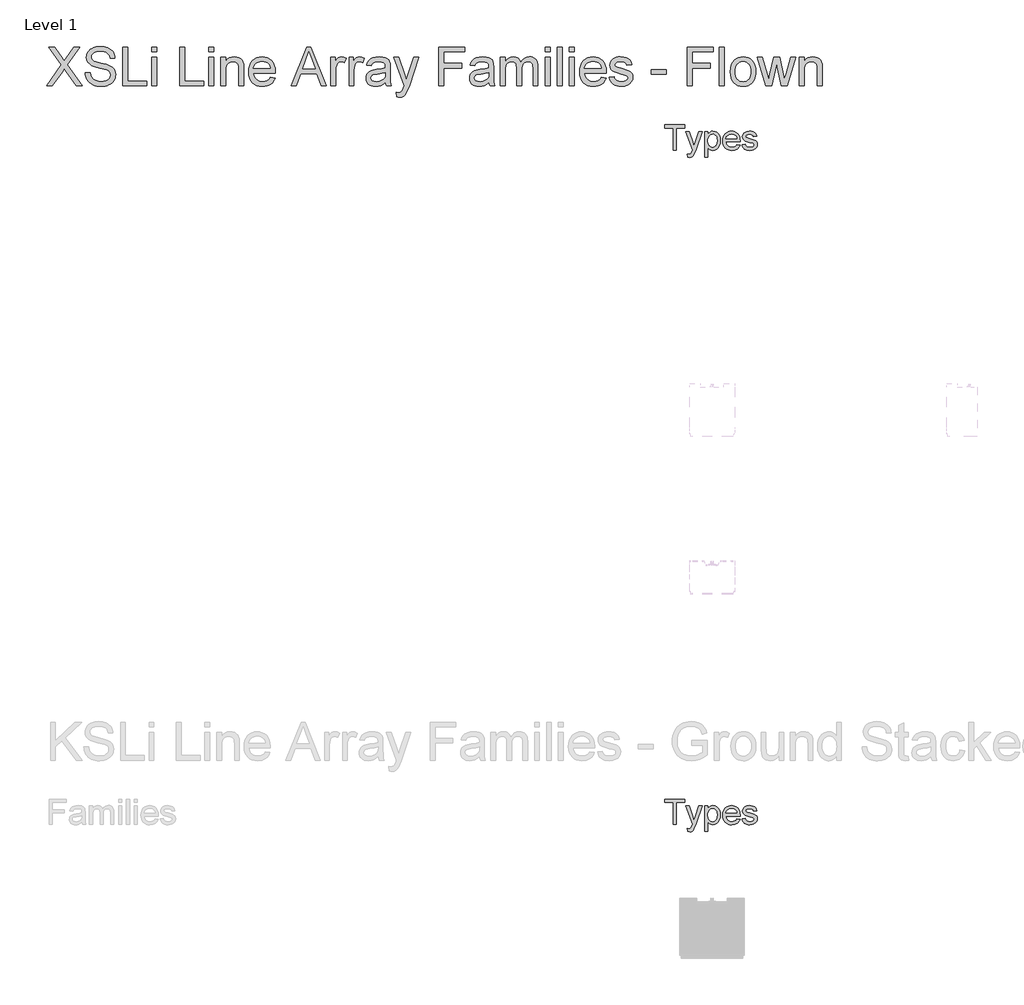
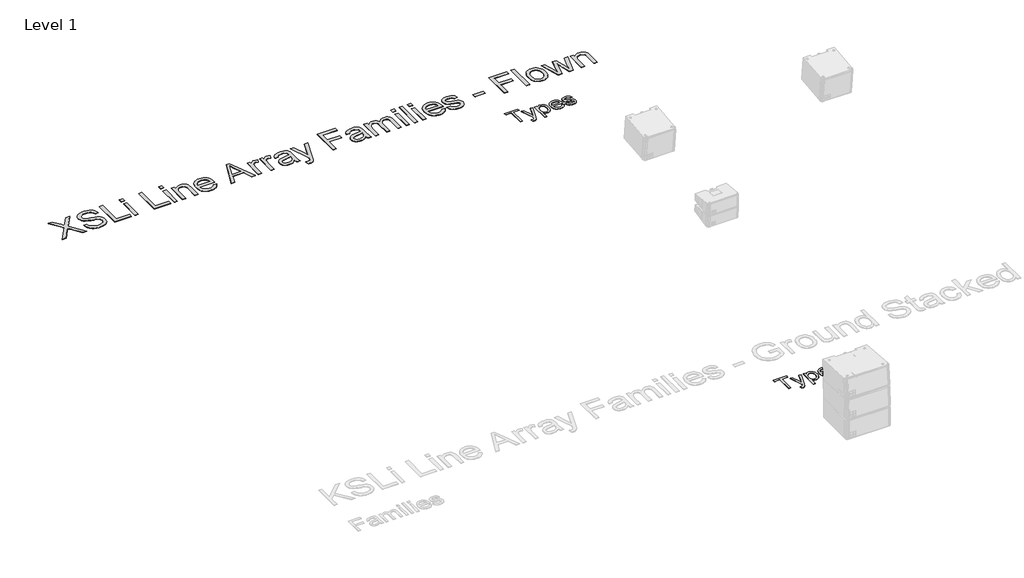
# One storey, part 42 of 52: 3 proxies.
"""IFC4 building model written with IfcOpenShell, lengths in millimetres."""

from ifc_helpers import new_model, si_unit, origin, origin_with_axes, place, context, project, spatial, polyline, outline, extrude, element, save

model = new_model("IFC4")

# Units and contexts
model_context = context("Model", 3, world=origin())
ifc_project = project(units=[si_unit("LENGTHUNIT", "METRE", prefix="MILLI")], contexts=[model_context])

# Site, building, storey
site = spatial("IfcSite", under=ifc_project)
building = spatial("IfcBuilding", under=site)
storey = spatial("IfcBuildingStorey", under=building, Name="Level 1", Elevation=0.0)

# Proxies
placement = place(None, origin())
element("IfcBuildingElementProxy", 1, Name="400mm Arial", ObjectType="400mm Arial", at=placement, inside=storey, context=model_context, shape_type="SweptSolid", body=[
    extrude(outline(polyline([(15654.0416973, -32067.5695164), (15654.0416973, -31724.7816376), (15525.4962428, -31724.7816376), (15525.4962428, -31675.8119407), (15831.5568488, -31675.8119407), (15831.5568488, -31724.7816376), (15703.0113943, -31724.7816376), (15703.0113943, -32067.5695164), (15654.0416973, -32067.5695164)])), origin_with_axes(), (0.0, 0.0, 1.0), 5.0),
    extrude(outline(polyline([(15880.5265458, -32177.7513346), (15874.4053337, -32130.5988725), (15899.2727579, -32134.9028498), (15912.3520666, -32133.5518791), (15922.5142352, -32129.4989672), (15936.7651821, -32114.4350467), (15950.1553337, -32078.3772816), (15953.9810912, -32066.5174331), (15849.9204852, -31779.8725467), (15901.5682125, -31779.8725467), (15956.7547655, -31939.5979255), (15975.9791973, -32003.488077), (15995.2036291, -31947.0581528), (16051.9204852, -31779.8725467), (16103.1856367, -31779.8725467), (16003.0464321, -32074.4558801), (15977.0312806, -32138.3460316), (15963.7128621, -32158.7421017), (15948.6250306, -32172.8734937), (15931.0982787, -32181.1227835), (15910.4630988, -32183.8725467), (15880.5265458, -32177.7513346)])), origin_with_axes(), (0.0, 0.0, 1.0), 5.0),
    extrude(outline(polyline([(16143.738667, -32177.7513346), (16143.738667, -31779.8725467), (16192.708364, -31779.8725467), (16192.708364, -31827.8858043), (16208.6809018, -31804.2019738), (16226.5663185, -31787.284952), (16247.4166973, -31777.134739), (16272.2841215, -31773.7513346), (16305.4008356, -31778.4857096), (16334.3570382, -31792.6888346), (16357.9332693, -31815.4999142), (16374.9100685, -31846.0581528), (16385.167881, -31882.1398289), (16388.5871518, -31921.521221), (16384.7255278, -31963.4013109), (16373.1406556, -32000.8578687), (16354.2031556, -32031.989971), (16328.2836481, -32054.8966945), (16298.0960297, -32068.99222), (16266.3541973, -32073.6907285), (16243.8420051, -32070.546434), (16223.7448223, -32061.1135505), (16206.5408687, -32046.874559), (16192.708364, -32029.3119407), (16192.708364, -32177.7513346), (16143.738667, -32177.7513346)]), holes=[polyline([(16192.708364, -31926.0164861), (16198.0046471, -31969.9170543), (16204.625001, -31986.9177645), (16213.8934965, -32000.6187589), (16237.3382172, -32018.6954634), (16250.7552686, -32023.2146395), (16265.302114, -32024.7210316), (16280.0581805, -32023.1608398), (16293.7203195, -32018.4802645), (16317.7628147, -31999.7579634), (16327.3242198, -31985.5608161), (16334.1537948, -31967.9324426), (16339.6174549, -31922.3820164), (16334.2853053, -31878.7205581), (16327.6201182, -31861.5883375), (16318.2888564, -31847.5884558), (16294.8800022, -31828.9378876), (16281.6153834, -31824.2752456), (16267.3106367, -31822.7210316), (16253.0507231, -31824.3738784), (16239.6336717, -31829.3324189), (16215.3281556, -31849.1665808), (16205.4319968, -31863.8867809), (16198.3633119, -31881.6018318), (16194.1221009, -31902.3117335), (16192.708364, -31926.0164861)])]), origin_with_axes(), (0.0, 0.0, 1.0), 5.0),
    extrude(outline(polyline([(16645.1041973, -31981.8725467), (16693.1174549, -31987.9937589), (16685.7558604, -32007.2241684), (16675.8178573, -32024.1710789), (16663.3034456, -32038.8344904), (16648.2126253, -32051.2144028), (16630.7008178, -32061.0477953), (16610.9234445, -32068.0716471), (16564.5720003, -32073.6907285), (16534.1871163, -32071.2667525), (16507.1139037, -32063.9948242), (16483.3523625, -32051.8749437), (16462.9024928, -32034.9071111), (16446.4577129, -32013.5635683), (16434.7114416, -31988.3165571), (16427.6636788, -31959.1660777), (16425.3144246, -31926.1121301), (16427.6875898, -31891.937355), (16434.8070856, -31861.8154918), (16446.6729118, -31835.7465406), (16463.2850685, -31813.7305013), (16483.6811386, -31796.2396159), (16506.8987049, -31783.7461263), (16532.9377674, -31776.2500325), (16561.7983261, -31773.7513346), (16589.7293453, -31776.2440548), (16614.9883119, -31783.7222153), (16637.5752259, -31796.1858161), (16657.4900875, -31813.6348573), (16673.7465683, -31835.6030747), (16685.3583403, -31861.6242039), (16692.3254035, -31891.6982451), (16694.6477579, -31925.8251982), (16694.3608261, -31939.0240619), (16474.2841215, -31939.0240619), (16477.1205621, -31958.5653142), (16482.7605657, -31975.6796017), (16491.2041322, -31990.3669241), (16502.4512617, -32002.6272816), (16530.8694672, -32019.1975941), (16565.5284397, -32024.7210316), (16591.5914132, -32022.1625562), (16613.5416973, -32014.4871301), (16631.379292, -32001.2165335), (16645.1041973, -31981.8725467)]), holes=[polyline([(16474.2841215, -31890.0543649), (16645.6780609, -31890.0543649), (16639.0547181, -31864.1826793), (16626.0710534, -31845.675577), (16612.7167683, -31835.6329634), (16597.5213375, -31828.4596679), (16561.6070382, -31822.7210316), (16528.5979236, -31827.2999852), (16501.3035344, -31841.036846), (16482.3301679, -31862.4491329), (16474.2841215, -31890.0543649)])]), origin_with_axes(), (0.0, 0.0, 1.0), 5.0),
    extrude(outline(polyline([(16725.2538185, -31981.8725467), (16774.2235155, -31975.7513346), (16781.9467636, -31996.6973573), (16796.8911291, -32012.0960316), (16819.152256, -32021.5647816), (16848.8257882, -32024.7210316), (16878.1406556, -32021.8278024), (16898.7519246, -32013.1481149), (16910.9465268, -32000.5709369), (16915.0113943, -31985.9852361), (16910.9226159, -31973.503702), (16898.6562806, -31963.9871301), (16848.2519246, -31950.0231149), (16774.5104473, -31926.0643081), (16755.8479236, -31914.0251272), (16742.3262617, -31898.0884558), (16734.1128384, -31879.2705107), (16731.3750306, -31858.5875089), (16733.5748412, -31839.6141424), (16740.1742731, -31822.099346), (16750.5755515, -31806.7365382), (16764.1809018, -31794.2191376), (16795.3130041, -31779.7290808), (16837.4441594, -31773.7513346), (16869.3175022, -31776.1543886), (16897.0303337, -31783.3635505), (16919.3153715, -31794.6734464), (16934.9053337, -31809.378702), (16945.2348791, -31828.5672674), (16951.738667, -31853.3270922), (16902.76897, -31859.4483043), (16896.5879804, -31844.0376746), (16884.3575117, -31832.4288914), (16865.9580089, -31825.1479965), (16841.269917, -31822.7210316), (16813.1505988, -31825.0403971), (16794.4043867, -31831.9984937), (16783.8596424, -31842.0411073), (16780.3447276, -31853.614024), (16786.1790079, -31867.864971), (16804.4470003, -31878.6727361), (16846.6259776, -31889.0979255), (16918.5023981, -31912.1481149), (16937.48772, -31923.1710789), (16951.8821329, -31938.2589104), (16960.9563517, -31957.4594312), (16963.9810912, -31980.8204634), (16960.43031, -32004.9705581), (16949.7779662, -32027.6859937), (16932.4305467, -32047.1854018), (16908.7945382, -32061.6874142), (16880.2448223, -32070.6899), (16848.1562806, -32073.6907285), (16821.8003976, -32072.244114), (16798.7800969, -32067.9042702), (16779.0953786, -32060.6711973), (16762.7462428, -32050.5448952), (16749.3919577, -32037.5731859), (16738.691792, -32021.8038914), (16730.6457456, -32003.2370117), (16725.2538185, -31981.8725467)])), origin_with_axes(), (0.0, 0.0, 1.0), 5.0),
])
element("IfcBuildingElementProxy", 2, Name="400mm Arial", ObjectType="400mm Arial", at=placement, inside=storey, context=model_context, shape_type="SweptSolid", body=[
    extrude(outline(polyline([(15654.0416973, -21567.5695164), (15654.0416973, -21224.7816376), (15525.4962428, -21224.7816376), (15525.4962428, -21175.8119407), (15831.5568488, -21175.8119407), (15831.5568488, -21224.7816376), (15703.0113943, -21224.7816376), (15703.0113943, -21567.5695164), (15654.0416973, -21567.5695164)])), origin_with_axes(), (0.0, 0.0, 1.0), 5.0),
    extrude(outline(polyline([(15880.5265458, -21677.7513346), (15874.4053337, -21630.5988725), (15899.2727579, -21634.9028498), (15912.3520666, -21633.5518791), (15922.5142352, -21629.4989672), (15936.7651821, -21614.4350467), (15950.1553337, -21578.3772816), (15953.9810912, -21566.5174331), (15849.9204852, -21279.8725467), (15901.5682125, -21279.8725467), (15956.7547655, -21439.5979255), (15975.9791973, -21503.488077), (15995.2036291, -21447.0581528), (16051.9204852, -21279.8725467), (16103.1856367, -21279.8725467), (16003.0464321, -21574.4558801), (15977.0312806, -21638.3460316), (15963.7128621, -21658.7421017), (15948.6250306, -21672.8734937), (15931.0982787, -21681.1227835), (15910.4630988, -21683.8725467), (15880.5265458, -21677.7513346)])), origin_with_axes(), (0.0, 0.0, 1.0), 5.0),
    extrude(outline(polyline([(16143.738667, -21677.7513346), (16143.738667, -21279.8725467), (16192.708364, -21279.8725467), (16192.708364, -21327.8858043), (16208.6809018, -21304.2019738), (16226.5663185, -21287.284952), (16247.4166973, -21277.134739), (16272.2841215, -21273.7513346), (16305.4008356, -21278.4857096), (16334.3570382, -21292.6888346), (16357.9332693, -21315.4999142), (16374.9100685, -21346.0581528), (16385.167881, -21382.1398289), (16388.5871518, -21421.521221), (16384.7255278, -21463.4013109), (16373.1406556, -21500.8578687), (16354.2031556, -21531.989971), (16328.2836481, -21554.8966945), (16298.0960297, -21568.99222), (16266.3541973, -21573.6907285), (16243.8420051, -21570.546434), (16223.7448223, -21561.1135505), (16206.5408687, -21546.874559), (16192.708364, -21529.3119407), (16192.708364, -21677.7513346), (16143.738667, -21677.7513346)]), holes=[polyline([(16192.708364, -21426.0164861), (16198.0046471, -21469.9170543), (16204.625001, -21486.9177645), (16213.8934965, -21500.6187589), (16237.3382172, -21518.6954634), (16250.7552686, -21523.2146395), (16265.302114, -21524.7210316), (16280.0581805, -21523.1608398), (16293.7203195, -21518.4802645), (16317.7628147, -21499.7579634), (16327.3242198, -21485.5608161), (16334.1537948, -21467.9324426), (16339.6174549, -21422.3820164), (16334.2853053, -21378.7205581), (16327.6201182, -21361.5883375), (16318.2888564, -21347.5884558), (16294.8800022, -21328.9378876), (16281.6153834, -21324.2752456), (16267.3106367, -21322.7210316), (16253.0507231, -21324.3738784), (16239.6336717, -21329.3324189), (16215.3281556, -21349.1665808), (16205.4319968, -21363.8867809), (16198.3633119, -21381.6018318), (16194.1221009, -21402.3117335), (16192.708364, -21426.0164861)])]), origin_with_axes(), (0.0, 0.0, 1.0), 5.0),
    extrude(outline(polyline([(16645.1041973, -21481.8725467), (16693.1174549, -21487.9937589), (16685.7558604, -21507.2241684), (16675.8178573, -21524.1710789), (16663.3034456, -21538.8344904), (16648.2126253, -21551.2144028), (16630.7008178, -21561.0477953), (16610.9234445, -21568.0716471), (16564.5720003, -21573.6907285), (16534.1871163, -21571.2667525), (16507.1139037, -21563.9948242), (16483.3523625, -21551.8749437), (16462.9024928, -21534.9071111), (16446.4577129, -21513.5635683), (16434.7114416, -21488.3165571), (16427.6636788, -21459.1660777), (16425.3144246, -21426.1121301), (16427.6875898, -21391.937355), (16434.8070856, -21361.8154918), (16446.6729118, -21335.7465406), (16463.2850685, -21313.7305013), (16483.6811386, -21296.2396159), (16506.8987049, -21283.7461263), (16532.9377674, -21276.2500325), (16561.7983261, -21273.7513346), (16589.7293453, -21276.2440548), (16614.9883119, -21283.7222153), (16637.5752259, -21296.1858161), (16657.4900875, -21313.6348573), (16673.7465683, -21335.6030747), (16685.3583403, -21361.6242039), (16692.3254035, -21391.6982451), (16694.6477579, -21425.8251982), (16694.3608261, -21439.0240619), (16474.2841215, -21439.0240619), (16477.1205621, -21458.5653142), (16482.7605657, -21475.6796017), (16491.2041322, -21490.3669241), (16502.4512617, -21502.6272816), (16530.8694672, -21519.1975941), (16565.5284397, -21524.7210316), (16591.5914132, -21522.1625562), (16613.5416973, -21514.4871301), (16631.379292, -21501.2165335), (16645.1041973, -21481.8725467)]), holes=[polyline([(16474.2841215, -21390.0543649), (16645.6780609, -21390.0543649), (16639.0547181, -21364.1826793), (16626.0710534, -21345.675577), (16612.7167683, -21335.6329634), (16597.5213375, -21328.4596679), (16561.6070382, -21322.7210316), (16528.5979236, -21327.2999852), (16501.3035344, -21341.036846), (16482.3301679, -21362.4491329), (16474.2841215, -21390.0543649)])]), origin_with_axes(), (0.0, 0.0, 1.0), 5.0),
    extrude(outline(polyline([(16725.2538185, -21481.8725467), (16774.2235155, -21475.7513346), (16781.9467636, -21496.6973573), (16796.8911291, -21512.0960316), (16819.152256, -21521.5647816), (16848.8257882, -21524.7210316), (16878.1406556, -21521.8278024), (16898.7519246, -21513.1481149), (16910.9465268, -21500.5709369), (16915.0113943, -21485.9852361), (16910.9226159, -21473.503702), (16898.6562806, -21463.9871301), (16848.2519246, -21450.0231149), (16774.5104473, -21426.0643081), (16755.8479236, -21414.0251272), (16742.3262617, -21398.0884558), (16734.1128384, -21379.2705107), (16731.3750306, -21358.5875089), (16733.5748412, -21339.6141424), (16740.1742731, -21322.099346), (16750.5755515, -21306.7365382), (16764.1809018, -21294.2191376), (16795.3130041, -21279.7290808), (16837.4441594, -21273.7513346), (16869.3175022, -21276.1543886), (16897.0303337, -21283.3635505), (16919.3153715, -21294.6734464), (16934.9053337, -21309.378702), (16945.2348791, -21328.5672674), (16951.738667, -21353.3270922), (16902.76897, -21359.4483043), (16896.5879804, -21344.0376746), (16884.3575117, -21332.4288914), (16865.9580089, -21325.1479965), (16841.269917, -21322.7210316), (16813.1505988, -21325.0403971), (16794.4043867, -21331.9984937), (16783.8596424, -21342.0411073), (16780.3447276, -21353.614024), (16786.1790079, -21367.864971), (16804.4470003, -21378.6727361), (16846.6259776, -21389.0979255), (16918.5023981, -21412.1481149), (16937.48772, -21423.1710789), (16951.8821329, -21438.2589104), (16960.9563517, -21457.4594312), (16963.9810912, -21480.8204634), (16960.43031, -21504.9705581), (16949.7779662, -21527.6859937), (16932.4305467, -21547.1854018), (16908.7945382, -21561.6874142), (16880.2448223, -21570.6899), (16848.1562806, -21573.6907285), (16821.8003976, -21572.244114), (16798.7800969, -21567.9042702), (16779.0953786, -21560.6711973), (16762.7462428, -21550.5448952), (16749.3919577, -21537.5731859), (16738.691792, -21521.8038914), (16730.6457456, -21503.2370117), (16725.2538185, -21481.8725467)])), origin_with_axes(), (0.0, 0.0, 1.0), 5.0),
])
element("IfcBuildingElementProxy", 3, Name="600mm Arial", ObjectType="600mm Arial", at=placement, inside=storey, context=model_context, shape_type="SweptSolid", body=[
    extrude(outline(polyline([(5900.4306241, -20567.5695164), (6132.7848923, -20239.1244711), (5938.1017404, -19964.8316555), (6028.4535584, -19964.8316555), (6138.082393, -20119.1949407), (6164.2388029, -20158.3007968), (6175.0177453, -20179.3804351), (6218.280668, -20118.1648711), (6326.7322801, -19964.8316555), (6418.4084733, -19964.8316555), (6223.7253215, -20240.0073879), (6456.0795896, -20567.5695164), (6365.7277716, -20567.5695164), (6210.923028, -20349.1947641), (6178.6965653, -20303.8717023), (6143.2327409, -20353.609348), (5992.1068173, -20567.5695164), (5900.4306241, -20567.5695164)])), origin_with_axes(), (0.0, 0.0, 1.0), 5.0),
    extrude(outline(polyline([(6503.168485, -20360.3783767), (6578.5107176, -20360.3783767), (6587.1559445, -20402.1881655), (6602.7909293, -20435.7941858), (6627.1815056, -20462.4656304), (6662.0935069, -20483.4716923), (6704.7678184, -20497.1017203), (6752.4453249, -20501.6450629), (6794.4206606, -20498.2053662), (6831.1720719, -20487.8862763), (6860.9521194, -20471.5523157), (6882.0133636, -20450.0680072), (6894.5397456, -20425.4015194), (6898.7152062, -20399.521021), (6895.5882093, -20374.3027103), (6886.2072184, -20352.505702), (6867.150931, -20333.9092672), (6834.9980447, -20318.2926765), (6725.2956337, -20289.5243045), (6653.2827331, -20270.4864112), (6607.2055133, -20252.368223), (6569.6999438, -20227.0211535), (6543.1204697, -20196.3030069), (6527.2831498, -20160.8759708), (6522.0040432, -20121.4022327), (6523.6365195, -20098.9660295), (6528.5339486, -20077.2747874), (6536.6963304, -20056.3285063), (6548.1236648, -20036.1271862), (6562.6871933, -20017.4939631), (6580.2581571, -20001.2519731), (6600.8365562, -19987.4012159), (6624.4223906, -19975.9416918), (6677.4341861, -19960.5458303), (6736.1113644, -19955.4138765), (6799.6813731, -19960.7849536), (6855.3051308, -19976.898185), (6879.6405248, -19988.9003351), (6900.9960746, -20003.4224768), (6919.3717803, -20020.4646103), (6934.7676418, -20040.0267353), (6947.0640974, -20061.538635), (6956.1415857, -20084.4300922), (6962.0001065, -20108.7011068), (6964.6396598, -20134.3516789), (6889.2974272, -20134.3516789), (6884.2574438, -20110.3105905), (6875.4650641, -20089.3964991), (6862.9202881, -20071.6094046), (6846.6231157, -20056.9493071), (6826.2700443, -20045.489783), (6801.5575713, -20037.3044086), (6772.4856966, -20032.3931839), (6739.0544203, -20030.7561091), (6704.5562862, -20032.3747898), (6675.0797414, -20037.2308322), (6650.6247857, -20045.3242361), (6631.1914193, -20056.6550015), (6616.384169, -20070.2758324), (6605.8075617, -20085.2394326), (6599.4615973, -20101.545802), (6597.3462758, -20119.1949407), (6598.8453949, -20134.3792701), (6603.3427523, -20148.1472537), (6610.838348, -20160.4988917), (6621.3321819, -20171.434184), (6637.8500835, -20181.7900622), (6663.8593405, -20192.2563049), (6744.3519211, -20213.5198843), (6827.4196756, -20233.7166058), (6877.6723561, -20251.3381534), (6920.622579, -20278.6717856), (6937.2278526, -20294.7390318), (6950.5865676, -20312.4065646), (6960.8550737, -20331.5824136), (6968.189721, -20352.1746083), (6974.0574388, -20397.6080347), (6972.3697802, -20421.175475), (6967.3068042, -20444.0531365), (6958.868511, -20466.2410194), (6947.0549004, -20487.7391235), (6932.0729061, -20507.7151158), (6914.1294618, -20525.3366634), (6893.2245675, -20540.6037662), (6869.358223, -20553.5164242), (6843.2248058, -20563.7849304), (6815.518693, -20571.1195777), (6755.3883809, -20576.9872955), (6716.8481434, -20575.4054029), (6681.5728586, -20570.6597252), (6649.5625265, -20562.7502623), (6620.8171471, -20551.6770142), (6595.1619764, -20537.4215869), (6572.4222706, -20519.9655863), (6552.5980296, -20499.3090122), (6535.6892534, -20475.4518648), (6522.0684225, -20449.1666963), (6512.1080175, -20421.2260587), (6505.8080383, -20391.6299522), (6503.168485, -20360.3783767)])), origin_with_axes(), (0.0, 0.0, 1.0), 5.0),
    extrude(outline(polyline([(7087.0707878, -20567.5695164), (7087.0707878, -19964.8316555), (7162.4130204, -19964.8316555), (7162.4130204, -20492.2272838), (7463.7819508, -20492.2272838), (7463.7819508, -20567.5695164), (7087.0707878, -20567.5695164)])), origin_with_axes(), (0.0, 0.0, 1.0), 5.0),
    extrude(outline(polyline([(7539.1241834, -20567.5695164), (7539.1241834, -20124.9338998), (7614.466416, -20124.9338998), (7614.466416, -20567.5695164), (7539.1241834, -20567.5695164)])), origin_with_axes(), (0.0, 0.0, 1.0), 5.0),
    extrude(outline(polyline([(7539.1241834, -20040.1738881), (7539.1241834, -19964.8316555), (7614.466416, -19964.8316555), (7614.466416, -20040.1738881), (7539.1241834, -20040.1738881)])), origin_with_axes(), (0.0, 0.0, 1.0), 5.0),
    extrude(outline(polyline([(7972.342021, -20567.5695164), (7972.342021, -19964.8316555), (8047.6842536, -19964.8316555), (8047.6842536, -20492.2272838), (8349.053184, -20492.2272838), (8349.053184, -20567.5695164), (7972.342021, -20567.5695164)])), origin_with_axes(), (0.0, 0.0, 1.0), 5.0),
    extrude(outline(polyline([(8424.3954166, -20567.5695164), (8424.3954166, -20124.9338998), (8499.7376492, -20124.9338998), (8499.7376492, -20567.5695164), (8424.3954166, -20567.5695164)])), origin_with_axes(), (0.0, 0.0, 1.0), 5.0),
    extrude(outline(polyline([(8424.3954166, -20040.1738881), (8424.3954166, -19964.8316555), (8499.7376492, -19964.8316555), (8499.7376492, -20040.1738881), (8424.3954166, -20040.1738881)])), origin_with_axes(), (0.0, 0.0, 1.0), 5.0),
    extrude(outline(polyline([(8612.7509982, -20567.5695164), (8612.7509982, -20124.9338998), (8688.0932308, -20124.9338998), (8688.0932308, -20186.738075), (8714.2680347, -20155.57847), (8745.7035512, -20133.3216093), (8782.3997802, -20119.9674929), (8824.3567218, -20115.5161208), (8861.4944092, -20119.1029702), (8895.5050997, -20129.8635186), (8923.8688015, -20146.4549965), (8944.065523, -20167.5346349), (8957.7691273, -20193.0472512), (8966.6534775, -20222.9376633), (8970.6266031, -20295.7782984), (8970.6266031, -20567.5695164), (8895.2843705, -20567.5695164), (8895.2843705, -20305.9318415), (8893.1138667, -20266.9731382), (8886.6023554, -20239.2716239), (8874.5910082, -20219.4243903), (8855.920997, -20204.0285288), (8831.9902732, -20194.1508972), (8804.1967884, -20190.8583534), (8781.3191269, -20192.7069604), (8760.0693431, -20198.2527815), (8740.4474372, -20207.4958166), (8722.4534091, -20220.4360658), (8707.4208311, -20238.545057), (8696.6832754, -20263.2943182), (8690.2407419, -20294.6838495), (8688.0932308, -20332.7136507), (8688.0932308, -20567.5695164), (8612.7509982, -20567.5695164)])), origin_with_axes(), (0.0, 0.0, 1.0), 5.0),
    extrude(outline(polyline([(9384.1259656, -20435.7206094), (9457.9966703, -20445.1383884), (9446.6705033, -20474.7252979), (9431.3804079, -20500.7989343), (9412.126384, -20523.3592977), (9388.9084316, -20542.406388), (9361.965674, -20557.535535), (9331.5372344, -20568.3420686), (9297.623113, -20574.8259888), (9260.2233097, -20576.9872955), (9213.4747051, -20573.2578918), (9171.8212662, -20562.0696806), (9135.262993, -20543.422662), (9103.7998853, -20517.3168359), (9078.4988011, -20484.4787693), (9060.4265981, -20445.6350291), (9049.5832763, -20400.7856154), (9045.9688357, -20349.9305281), (9049.6200645, -20297.3509939), (9060.5737509, -20251.0070596), (9078.8298949, -20210.8987251), (9104.3884965, -20177.0259903), (9135.7688307, -20150.1154224), (9171.4901724, -20130.8935882), (9211.5525217, -20119.3604876), (9255.9558785, -20115.5161208), (9298.9290941, -20119.3512906), (9337.7912284, -20130.8568), (9372.5422813, -20150.032649), (9403.182253, -20176.8788375), (9428.1936301, -20210.6779959), (9446.0588995, -20250.712754), (9456.7780612, -20296.9831119), (9460.351115, -20349.4890697), (9459.9096567, -20369.7961558), (9121.3110683, -20369.7961558), (9125.6750685, -20399.8613119), (9134.352485, -20426.1924657), (9147.343318, -20448.7896172), (9164.6475673, -20467.6527665), (9185.3087399, -20482.5243962), (9208.3703424, -20493.1469888), (9233.832375, -20499.5205444), (9261.6948376, -20501.6450629), (9301.7939751, -20497.7087255), (9335.5655423, -20485.8997135), (9363.0095391, -20465.4822628), (9384.1259656, -20435.7206094)]), holes=[polyline([(9121.3110683, -20294.4539232), (9385.0088824, -20294.4539232), (9374.8185512, -20254.6490913), (9366.0537626, -20238.9957124), (9354.8425588, -20226.1750249), (9334.2963494, -20210.7239811), (9310.9174486, -20199.6875213), (9284.7058564, -20193.0656453), (9255.6615729, -20190.8583534), (9229.1694708, -20192.6195884), (9204.8754635, -20197.9032936), (9182.7795512, -20206.7094688), (9162.8817337, -20219.0381142), (9146.1844897, -20234.3190126), (9133.6902974, -20251.9819469), (9125.399157, -20272.0269171), (9121.3110683, -20294.4539232)])]), origin_with_axes(), (0.0, 0.0, 1.0), 5.0),
    extrude(outline(polyline([(9710.363719, -20567.5695164), (9950.9585438, -19964.8316555), (10015.1171638, -19964.8316555), (10255.7119886, -20567.5695164), (10176.1023249, -20567.5695164), (10107.0876626, -20379.2139349), (9858.8408922, -20379.2139349), (9789.9733827, -20567.5695164), (9710.363719, -20567.5695164)]), holes=[polyline([(9886.5056183, -20303.8717023), (10079.5700893, -20303.8717023), (10025.2707068, -20155.6888346), (9983.0378538, -20040.1738881), (9945.5138903, -20142.7393884), (9886.5056183, -20303.8717023)])]), origin_with_axes(), (0.0, 0.0, 1.0), 5.0),
    extrude(outline(polyline([(10326.7867901, -20567.5695164), (10326.7867901, -20124.9338998), (10392.7112436, -20124.9338998), (10392.7112436, -20190.416895), (10417.0650317, -20152.4514731), (10439.5058334, -20130.0842478), (10462.0202115, -20119.1581525), (10486.5947288, -20115.5161208), (10524.1186923, -20121.3286563), (10562.231267, -20138.7662628), (10537.0681385, -20206.3093972), (10510.5806349, -20194.7211143), (10484.0931312, -20190.8583534), (10461.5971472, -20194.5739615), (10441.4923962, -20205.720786), (10425.2504061, -20223.4526981), (10414.3427049, -20246.9235694), (10405.1824433, -20289.0092697), (10402.1290227, -20334.9209427), (10402.1290227, -20567.5695164), (10326.7867901, -20567.5695164)])), origin_with_axes(), (0.0, 0.0, 1.0), 5.0),
    extrude(outline(polyline([(10609.3201624, -20567.5695164), (10609.3201624, -20124.9338998), (10675.2446159, -20124.9338998), (10675.2446159, -20190.416895), (10699.598404, -20152.4514731), (10722.0392057, -20130.0842478), (10744.5535838, -20119.1581525), (10769.1281011, -20115.5161208), (10806.6520646, -20121.3286563), (10844.7646393, -20138.7662628), (10819.6015108, -20206.3093972), (10793.1140072, -20194.7211143), (10766.6265035, -20190.8583534), (10744.1305195, -20194.5739615), (10724.0257685, -20205.720786), (10707.7837784, -20223.4526981), (10696.8760772, -20246.9235694), (10687.7158156, -20289.0092697), (10684.662395, -20334.9209427), (10684.662395, -20567.5695164), (10609.3201624, -20567.5695164)])), origin_with_axes(), (0.0, 0.0, 1.0), 5.0),
    extrude(outline(polyline([(11174.386907, -20511.062842), (11138.3896537, -20541.9281414), (11101.3255427, -20562.1248629), (11062.3484453, -20573.2716874), (11020.612233, -20576.9872955), (10987.0659936, -20574.7524124), (10957.6492295, -20568.047763), (10932.3619409, -20556.8733474), (10911.2041276, -20541.2291656), (10894.4976865, -20522.1084989), (10882.5645143, -20500.5046287), (10875.404611, -20476.4175551), (10873.0179765, -20449.847278), (10876.6232201, -20418.6140966), (10887.4389507, -20390.2503948), (10904.1223992, -20365.9701831), (10925.3307962, -20346.9874721), (10950.2548014, -20332.6400743), (10978.0850743, -20322.265802), (11043.2737639, -20310.9350366), (11120.3082537, -20299.0156599), (11173.9454486, -20285.0361441), (11174.386907, -20268.2607252), (11169.1997708, -20234.6363108), (11162.7158507, -20222.1835053), (11153.6383624, -20212.6369675), (11137.9481954, -20203.1088238), (11118.8367257, -20196.3030069), (11070.3498787, -20190.8583534), (11025.4682753, -20194.481991), (10994.1247293, -20205.352904), (10972.7507854, -20225.457655), (10957.7779882, -20256.7828069), (10882.4357556, -20247.3650278), (10895.5139605, -20206.1622444), (10915.0301004, -20173.7886288), (10942.805191, -20149.0301705), (10980.6602483, -20130.672859), (11026.9581974, -20119.3053053), (11080.0619634, -20115.5161208), (11130.9952256, -20118.8638469), (11171.3702746, -20128.9070254), (11201.8125097, -20144.0085813), (11222.9473303, -20162.5314397), (11236.9636344, -20185.4320939), (11246.0503196, -20213.6670371), (11249.7291396, -20279.5914906), (11249.7291396, -20373.327823), (11253.5551123, -20504.2202369), (11259.2204951, -20536.5754583), (11268.5646977, -20567.5695164), (11193.2224651, -20567.5695164), (11181.1559357, -20541.3763184), (11174.386907, -20511.062842)]), holes=[polyline([(11174.386907, -20360.3783767), (11123.7663444, -20372.9231528), (11052.8386958, -20383.481366), (10988.0178882, -20395.6950483), (10971.1504987, -20404.0459696), (10958.660905, -20415.560676), (10950.9353831, -20429.3562508), (10948.3602091, -20444.5497772), (10953.9704096, -20466.9537907), (10970.8010108, -20485.3111023), (10998.484131, -20497.5615727), (11036.651888, -20501.6450629), (11077.1189074, -20497.1385085), (11112.8770374, -20483.6188451), (11141.8661386, -20463.6980351), (11162.0260719, -20439.9880405), (11170.9656044, -20415.560676), (11173.9454486, -20381.7155325), (11174.386907, -20360.3783767)])]), origin_with_axes(), (0.0, 0.0, 1.0), 5.0),
    extrude(outline(polyline([(11353.3247094, -20737.0895398), (11343.9069304, -20664.5432104), (11382.1666578, -20671.1650863), (11402.289803, -20669.086553), (11417.9247878, -20662.8509532), (11430.1016818, -20652.8997452), (11439.8505547, -20639.6743875), (11460.4519464, -20584.1977826), (11466.3380583, -20565.9508356), (11306.235814, -20124.9338998), (11385.698325, -20124.9338998), (11470.6054895, -20370.6790726), (11500.1832019, -20468.9771417), (11529.7609143, -20382.1569909), (11617.0225236, -20124.9338998), (11695.8964233, -20124.9338998), (11541.8274438, -20578.1645179), (11501.8018827, -20676.462587), (11481.3108555, -20707.8429212), (11458.0975017, -20729.5847471), (11431.1317514, -20742.2766759), (11399.3835352, -20746.5073189), (11377.5681329, -20744.1528741), (11353.3247094, -20737.0895398)])), origin_with_axes(), (0.0, 0.0, 1.0), 5.0),
    extrude(outline(polyline([(12003.1514657, -20567.5695164), (12003.1514657, -19964.8316555), (12408.115966, -19964.8316555), (12408.115966, -20040.1738881), (12078.4936983, -20040.1738881), (12078.4936983, -20219.1116906), (12361.0270706, -20219.1116906), (12361.0270706, -20294.4539232), (12078.4936983, -20294.4539232), (12078.4936983, -20567.5695164), (12003.1514657, -20567.5695164)])), origin_with_axes(), (0.0, 0.0, 1.0), 5.0),
    extrude(outline(polyline([(12784.8271291, -20511.062842), (12748.8298758, -20541.9281414), (12711.7657648, -20562.1248629), (12672.7886674, -20573.2716874), (12631.0524551, -20576.9872955), (12597.5062156, -20574.7524124), (12568.0894516, -20568.047763), (12542.802163, -20556.8733474), (12521.6443497, -20541.2291656), (12504.9379086, -20522.1084989), (12493.0047364, -20500.5046287), (12485.8448331, -20476.4175551), (12483.4581986, -20449.847278), (12487.0634422, -20418.6140966), (12497.8791728, -20390.2503948), (12514.5626213, -20365.9701831), (12535.7710183, -20346.9874721), (12560.6950235, -20332.6400743), (12588.5252964, -20322.265802), (12653.713986, -20310.9350366), (12730.7484758, -20299.0156599), (12784.3856707, -20285.0361441), (12784.8271291, -20268.2607252), (12779.6399929, -20234.6363108), (12773.1560728, -20222.1835053), (12764.0785845, -20212.6369675), (12748.3884174, -20203.1088238), (12729.2769478, -20196.3030069), (12680.7901008, -20190.8583534), (12635.9084974, -20194.481991), (12604.5649514, -20205.352904), (12583.1910075, -20225.457655), (12568.2182103, -20256.7828069), (12492.8759777, -20247.3650278), (12505.9541826, -20206.1622444), (12525.4703225, -20173.7886288), (12553.2454131, -20149.0301705), (12591.1004704, -20130.672859), (12637.3984195, -20119.3053053), (12690.5021855, -20115.5161208), (12741.4354477, -20118.8638469), (12781.8104967, -20128.9070254), (12812.2527318, -20144.0085813), (12833.3875524, -20162.5314397), (12847.4038564, -20185.4320939), (12856.4905417, -20213.6670371), (12860.1693617, -20279.5914906), (12860.1693617, -20373.327823), (12863.9953344, -20504.2202369), (12869.6607171, -20536.5754583), (12879.0049198, -20567.5695164), (12803.6626872, -20567.5695164), (12791.5961578, -20541.3763184), (12784.8271291, -20511.062842)]), holes=[polyline([(12784.8271291, -20360.3783767), (12734.2065665, -20372.9231528), (12663.2789179, -20383.481366), (12598.4581103, -20395.6950483), (12581.5907208, -20404.0459696), (12569.1011271, -20415.560676), (12561.3756052, -20429.3562508), (12558.8004312, -20444.5497772), (12564.4106316, -20466.9537907), (12581.2412329, -20485.3111023), (12608.9243531, -20497.5615727), (12647.0921101, -20501.6450629), (12687.5591295, -20497.1385085), (12723.3172595, -20483.6188451), (12752.3063607, -20463.6980351), (12772.466294, -20439.9880405), (12781.4058265, -20415.560676), (12784.3856707, -20381.7155325), (12784.8271291, -20360.3783767)])]), origin_with_axes(), (0.0, 0.0, 1.0), 5.0),
    extrude(outline(polyline([(12963.7649315, -20567.5695164), (12963.7649315, -20124.9338998), (13039.1071641, -20124.9338998), (13039.1071641, -20197.7745349), (13061.768695, -20164.3156674), (13090.904949, -20138.1040753), (13125.5226448, -20121.1631094), (13164.6285009, -20115.5161208), (13206.5302601, -20121.273474), (13224.3633398, -20128.4701655), (13240.1178863, -20138.5455337), (13265.2074384, -20166.1918656), (13281.6149753, -20203.0720356), (13309.0773663, -20164.7663229), (13340.4025182, -20137.4050995), (13375.590431, -20120.9883654), (13414.6411048, -20115.5161208), (13444.8028299, -20117.7923906), (13471.276538, -20124.6212001), (13494.062229, -20136.0025494), (13513.1599031, -20151.9364383), (13528.2568605, -20172.6068079), (13539.0404015, -20198.1975992), (13545.5105261, -20228.7088121), (13547.6672343, -20264.1404468), (13547.6672343, -20567.5695164), (13472.3250016, -20567.5695164), (13472.3250016, -20296.5140624), (13470.5775622, -20258.9349166), (13465.3352437, -20233.6062412), (13455.5127945, -20216.2606051), (13440.0249625, -20202.6305772), (13420.1041524, -20193.8014093), (13396.982769, -20190.8583534), (13375.6318177, -20192.7437486), (13356.1662617, -20198.3999343), (13338.5861008, -20207.8269104), (13322.8913352, -20221.024677), (13309.9832757, -20238.3795101), (13300.7632332, -20260.2776859), (13295.2312077, -20286.7192043), (13293.3871992, -20317.7040653), (13293.3871992, -20567.5695164), (13218.0449666, -20567.5695164), (13218.0449666, -20288.1263529), (13213.6855649, -20245.5256178), (13208.2363129, -20228.8053812), (13200.60736, -20215.138565), (13190.4952037, -20204.5159724), (13177.5963412, -20196.9284063), (13161.9107726, -20192.3758666), (13143.438498, -20190.8583534), (13114.4126085, -20194.9050553), (13087.6675875, -20207.0451612), (13065.5946678, -20226.9843653), (13050.5850824, -20254.4283621), (13041.9766437, -20292.5041486), (13039.1071641, -20344.3387218), (13039.1071641, -20567.5695164), (12963.7649315, -20567.5695164)])), origin_with_axes(), (0.0, 0.0, 1.0), 5.0),
    extrude(outline(polyline([(13660.6805832, -20567.5695164), (13660.6805832, -20124.9338998), (13736.0228158, -20124.9338998), (13736.0228158, -20567.5695164), (13660.6805832, -20567.5695164)])), origin_with_axes(), (0.0, 0.0, 1.0), 5.0),
    extrude(outline(polyline([(13660.6805832, -20040.1738881), (13660.6805832, -19964.8316555), (13736.0228158, -19964.8316555), (13736.0228158, -20040.1738881), (13660.6805832, -20040.1738881)])), origin_with_axes(), (0.0, 0.0, 1.0), 5.0),
    extrude(outline(polyline([(13849.0361647, -20567.5695164), (13849.0361647, -19964.8316555), (13924.3783973, -19964.8316555), (13924.3783973, -20567.5695164), (13849.0361647, -20567.5695164)])), origin_with_axes(), (0.0, 0.0, 1.0), 5.0),
    extrude(outline(polyline([(14037.3917462, -20567.5695164), (14037.3917462, -20124.9338998), (14112.7339788, -20124.9338998), (14112.7339788, -20567.5695164), (14037.3917462, -20567.5695164)])), origin_with_axes(), (0.0, 0.0, 1.0), 5.0),
    extrude(outline(polyline([(14037.3917462, -20040.1738881), (14037.3917462, -19964.8316555), (14112.7339788, -19964.8316555), (14112.7339788, -20040.1738881), (14037.3917462, -20040.1738881)])), origin_with_axes(), (0.0, 0.0, 1.0), 5.0),
    extrude(outline(polyline([(14535.6511205, -20435.7206094), (14609.5218251, -20445.1383884), (14598.1956582, -20474.7252979), (14582.9055628, -20500.7989343), (14563.6515389, -20523.3592977), (14540.4335864, -20542.406388), (14513.4908288, -20557.535535), (14483.0623893, -20568.3420686), (14449.1482679, -20574.8259888), (14411.7484645, -20576.9872955), (14364.99986, -20573.2578918), (14323.3464211, -20562.0696806), (14286.7881478, -20543.422662), (14255.3250402, -20517.3168359), (14230.023956, -20484.4787693), (14211.9517529, -20445.6350291), (14201.1084311, -20400.7856154), (14197.4939905, -20349.9305281), (14201.1452193, -20297.3509939), (14212.0989057, -20251.0070596), (14230.3550498, -20210.8987251), (14255.9136514, -20177.0259903), (14287.2939856, -20150.1154224), (14323.0153273, -20130.8935882), (14363.0776766, -20119.3604876), (14407.4810334, -20115.5161208), (14450.4542489, -20119.3512906), (14489.3163832, -20130.8568), (14524.0674362, -20150.032649), (14554.7074079, -20176.8788375), (14579.718785, -20210.6779959), (14597.5840544, -20250.712754), (14608.303216, -20296.9831119), (14611.8762699, -20349.4890697), (14611.4348115, -20369.7961558), (14272.8362232, -20369.7961558), (14277.2002233, -20399.8613119), (14285.8776399, -20426.1924657), (14298.8684728, -20448.7896172), (14316.1727222, -20467.6527665), (14336.8338947, -20482.5243962), (14359.8954973, -20493.1469888), (14385.3575299, -20499.5205444), (14413.2199925, -20501.6450629), (14453.31913, -20497.7087255), (14487.0906971, -20485.8997135), (14514.534694, -20465.4822628), (14535.6511205, -20435.7206094)]), holes=[polyline([(14272.8362232, -20294.4539232), (14536.5340373, -20294.4539232), (14526.343706, -20254.6490913), (14517.5789175, -20238.9957124), (14506.3677137, -20226.1750249), (14485.8215043, -20210.7239811), (14462.4426035, -20199.6875213), (14436.2310113, -20193.0656453), (14407.1867278, -20190.8583534), (14380.6946256, -20192.6195884), (14356.4006184, -20197.9032936), (14334.304706, -20206.7094688), (14314.4068886, -20219.0381142), (14297.7096445, -20234.3190126), (14285.2154523, -20251.9819469), (14276.9243118, -20272.0269171), (14272.8362232, -20294.4539232)])]), origin_with_axes(), (0.0, 0.0, 1.0), 5.0),
    extrude(outline(polyline([(14658.9651653, -20435.7206094), (14734.3073979, -20426.3028303), (14738.8599376, -20443.4829195), (14746.1899863, -20458.5292931), (14756.2975442, -20471.4419511), (14769.182611, -20482.2208935), (14784.8819752, -20490.7189676), (14803.4324248, -20496.7890206), (14849.0865804, -20501.6450629), (14894.188913, -20497.1936908), (14911.7184901, -20491.6294756), (14925.900341, -20483.8395743), (14944.6623227, -20464.4889814), (14949.3528182, -20453.6548566), (14950.9163167, -20442.0481797), (14949.3436211, -20431.8762425), (14944.6255345, -20422.8447395), (14925.7531882, -20408.2030361), (14897.5366392, -20398.6381042), (14848.2036636, -20386.7187276), (14779.4465187, -20366.8347058), (14734.7488563, -20349.8569517), (14706.0356666, -20331.3340932), (14685.2319397, -20306.8147582), (14672.5951932, -20277.8624452), (14668.3829444, -20246.0406526), (14671.7674587, -20216.8492163), (14681.9210018, -20189.9018602), (14697.9238686, -20166.265442), (14718.8563541, -20147.0068195), (14739.6600809, -20134.8851078), (14766.7545899, -20124.7131706), (14798.0797418, -20117.8153832), (14831.5753974, -20115.5161208), (14880.6140674, -20119.2133348), (14923.2515906, -20130.304977), (14957.5381926, -20147.7057953), (14981.5240987, -20170.330538), (14997.4166009, -20199.8530681), (15007.4229911, -20237.9472487), (14932.0807585, -20247.3650278), (14922.5710089, -20223.6550332), (14903.7538449, -20205.7943624), (14875.4453253, -20194.5923556), (14837.4615093, -20190.8583534), (14794.1985867, -20194.4268087), (14765.3566383, -20205.1321748), (14749.1330423, -20220.5832186), (14743.725177, -20238.3887071), (14745.9692571, -20249.97699), (14752.7014977, -20260.3144741), (14764.2162041, -20269.5483121), (14780.8076821, -20276.9427402), (14845.702066, -20292.9823952), (14956.2873938, -20328.4462196), (14985.4972242, -20345.4055795), (15007.6437203, -20368.6189334), (15021.604842, -20398.1598576), (15026.2585493, -20434.1019286), (15020.7955016, -20471.2580101), (15004.4063588, -20506.2067996), (14977.71652, -20536.2075763), (14941.3513848, -20558.5196193), (14897.4262746, -20572.3703765), (14848.0565108, -20576.9872955), (14807.5067179, -20574.7616094), (14772.0888788, -20568.0845512), (14741.8029936, -20556.9561209), (14716.6490621, -20541.3763184), (14696.1028527, -20521.4187201), (14679.6401334, -20497.1569026), (14667.2609043, -20468.5908656), (14658.9651653, -20435.7206094)])), origin_with_axes(), (0.0, 0.0, 1.0), 5.0),
    extrude(outline(polyline([(15308.7919216, -20388.631714), (15308.7919216, -20313.2894814), (15544.2363985, -20313.2894814), (15544.2363985, -20388.631714), (15308.7919216, -20388.631714)])), origin_with_axes(), (0.0, 0.0, 1.0), 5.0),
    extrude(outline(polyline([(15873.8586662, -20567.5695164), (15873.8586662, -19964.8316555), (16278.8231665, -19964.8316555), (16278.8231665, -20040.1738881), (15949.2008988, -20040.1738881), (15949.2008988, -20219.1116906), (16231.7342711, -20219.1116906), (16231.7342711, -20294.4539232), (15949.2008988, -20294.4539232), (15949.2008988, -20567.5695164), (15873.8586662, -20567.5695164)])), origin_with_axes(), (0.0, 0.0, 1.0), 5.0),
    extrude(outline(polyline([(16373.0009572, -20567.5695164), (16373.0009572, -19964.8316555), (16448.3431898, -19964.8316555), (16448.3431898, -20567.5695164), (16373.0009572, -20567.5695164)])), origin_with_axes(), (0.0, 0.0, 1.0), 5.0),
    extrude(outline(polyline([(16542.5209806, -20346.2517081), (16546.5952737, -20288.9264962), (16558.818153, -20239.5291413), (16579.1896185, -20198.0596434), (16607.7096701, -20164.5180025), (16636.4228599, -20143.0796792), (16668.1158937, -20127.7665912), (16702.7887718, -20118.5787384), (16740.441494, -20115.5161208), (16782.0075609, -20119.2455245), (16819.5913053, -20130.4337357), (16853.192727, -20149.0807543), (16882.8118261, -20175.1865804), (16906.9862717, -20207.8682971), (16924.2537329, -20246.2429877), (16934.6142096, -20290.3106522), (16938.0677018, -20340.0712906), (16936.5409915, -20380.4003543), (16931.9608607, -20416.1860754), (16924.3273093, -20447.4284539), (16913.6403373, -20474.1274897), (16900.033302, -20497.1890922), (16883.6395606, -20517.519171), (16864.4591131, -20535.1177259), (16842.4919595, -20549.9847571), (16818.5934253, -20561.7983676), (16793.6188364, -20570.2366609), (16767.5681926, -20575.2996369), (16740.441494, -20576.9872955), (16698.2684218, -20573.2716874), (16660.3351895, -20562.1248629), (16626.6417973, -20543.5468221), (16597.1882451, -20517.5375651), (16573.2713169, -20484.5385501), (16556.1877967, -20444.9912356), (16545.9376846, -20398.8956216), (16542.5209806, -20346.2517081)]), holes=[polyline([(16617.8632132, -20346.1045553), (16620.042914, -20382.649033), (16626.5820165, -20414.2914831), (16637.4805206, -20441.0319057), (16652.7384263, -20462.8703006), (16671.298073, -20479.8342591), (16692.1017998, -20491.9513723), (16715.1496068, -20499.2216402), (16740.441494, -20501.6450629), (16765.6046225, -20499.2078447), (16788.560459, -20491.89619), (16809.3090035, -20479.7100989), (16827.8502561, -20462.6495714), (16843.1081618, -20440.5950458), (16854.0066659, -20413.4269604), (16860.5457684, -20381.1453154), (16862.7254692, -20343.7501106), (16860.5319728, -20308.3644612), (16853.9514836, -20277.5497455), (16842.9840016, -20251.3059637), (16827.6295269, -20229.6331157), (16809.0192964, -20212.6691572), (16788.2845475, -20200.5520439), (16765.42528, -20193.281776), (16740.441494, -20190.8583534), (16715.1496068, -20193.272579), (16692.1017998, -20200.5152557), (16671.298073, -20212.5863837), (16652.7384263, -20229.4859629), (16637.4805206, -20251.2599784), (16626.5820165, -20277.9544157), (16620.042914, -20309.5692747), (16617.8632132, -20346.1045553)])]), origin_with_axes(), (0.0, 0.0, 1.0), 5.0),
    extrude(outline(polyline([(17096.2569597, -20567.5695164), (16961.6121495, -20124.9338998), (17039.8974381, -20124.9338998), (17116.2697403, -20383.1870604), (17139.078424, -20475.4518648), (17157.7668293, -20386.5715748), (17218.5409349, -20124.9338998), (17308.3041418, -20124.9338998), (17368.7839418, -20385.8358108), (17385.4122079, -20466.3283914), (17409.2509612, -20381.4212269), (17485.7704162, -20124.9338998), (17564.3500104, -20124.9338998), (17428.6751306, -20567.5695164), (17337.5875486, -20567.5695164), (17279.7564989, -20307.9919806), (17262.9810799, -20227.0579417), (17188.3746113, -20567.5695164), (17096.2569597, -20567.5695164)])), origin_with_axes(), (0.0, 0.0, 1.0), 5.0),
    extrude(outline(polyline([(17616.1477953, -20567.5695164), (17616.1477953, -20124.9338998), (17691.4900279, -20124.9338998), (17691.4900279, -20186.738075), (17717.6648319, -20155.57847), (17749.1003484, -20133.3216093), (17785.7965774, -20119.9674929), (17827.7535189, -20115.5161208), (17864.8912064, -20119.1029702), (17898.9018968, -20129.8635186), (17927.2655986, -20146.4549965), (17947.4623202, -20167.5346349), (17961.1659245, -20193.0472512), (17970.0502747, -20222.9376633), (17974.0234002, -20295.7782984), (17974.0234002, -20567.5695164), (17898.6811676, -20567.5695164), (17898.6811676, -20305.9318415), (17896.5106638, -20266.9731382), (17889.9991525, -20239.2716239), (17877.9878054, -20219.4243903), (17859.3177941, -20204.0285288), (17835.3870703, -20194.1508972), (17807.5935856, -20190.8583534), (17784.715924, -20192.7069604), (17763.4661403, -20198.2527815), (17743.8442344, -20207.4958166), (17725.8502063, -20220.4360658), (17710.8176283, -20238.545057), (17700.0800725, -20263.2943182), (17693.6375391, -20294.6838495), (17691.4900279, -20332.7136507), (17691.4900279, -20567.5695164), (17616.1477953, -20567.5695164)])), origin_with_axes(), (0.0, 0.0, 1.0), 5.0),
])

save(model, "model.ifc")
